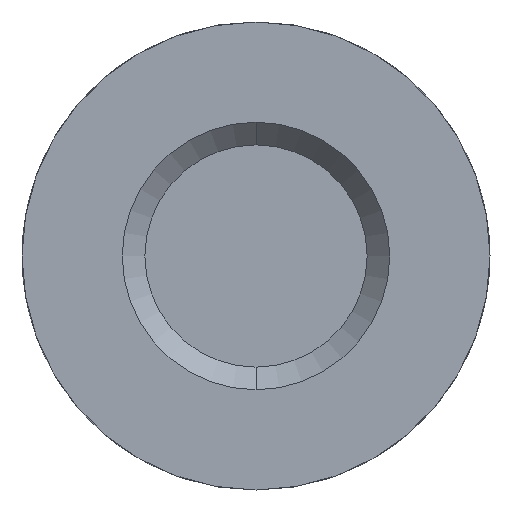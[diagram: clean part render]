
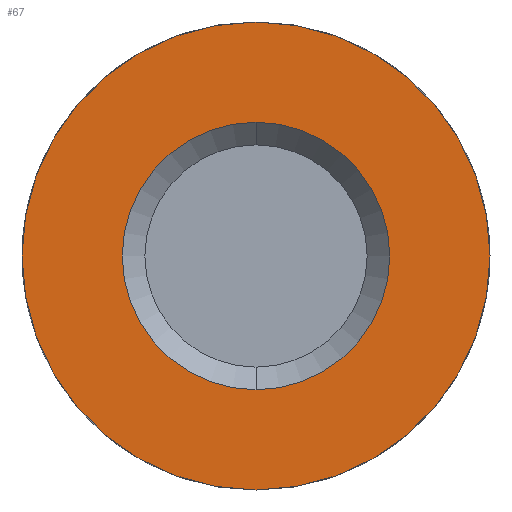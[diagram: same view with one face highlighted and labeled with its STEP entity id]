
A CAD part, front view. The second image highlights one B-rep face of the part: STEP entity #67.
In plain terms, the highlighted planar face has unit normal (0, -1, 0).
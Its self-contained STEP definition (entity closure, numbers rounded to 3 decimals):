
#3 = ORIENTED_EDGE ( 'NONE', *, *, #135, .T. ) ;
#4 = VERTEX_POINT ( 'NONE', #316 ) ;
#15 = CIRCLE ( 'NONE', #133, 4. ) ;
#26 = PLANE ( 'NONE',  #543 ) ;
#45 = EDGE_CURVE ( 'NONE', #66, #617, #188, .T. ) ;
#66 = VERTEX_POINT ( 'NONE', #222 ) ;
#67 = ADVANCED_FACE ( 'NONE', ( #283, #488 ), #26, .T. ) ;
#74 = AXIS2_PLACEMENT_3D ( 'NONE', #586, #339, #288 ) ;
#79 = CARTESIAN_POINT ( 'NONE',  ( 5.5, 0., 0. ) ) ;
#133 = AXIS2_PLACEMENT_3D ( 'NONE', #484, #584, #387 ) ;
#135 = EDGE_CURVE ( 'NONE', #481, #4, #15, .T. ) ;
#147 = CARTESIAN_POINT ( 'NONE',  ( 0., 0., -7. ) ) ;
#171 = CARTESIAN_POINT ( 'NONE',  ( 0., 0., 0. ) ) ;
#172 = ORIENTED_EDGE ( 'NONE', *, *, #413, .T. ) ;
#188 = CIRCLE ( 'NONE', #357, 7. ) ;
#219 = CARTESIAN_POINT ( 'NONE',  ( 0., 0., -4. ) ) ;
#222 = CARTESIAN_POINT ( 'NONE',  ( 0., 0., 7. ) ) ;
#283 = FACE_BOUND ( 'NONE', #284, .T. ) ;
#284 = EDGE_LOOP ( 'NONE', ( #3, #172 ) ) ;
#288 = DIRECTION ( 'NONE',  ( 0., 0., 1. ) ) ;
#303 = DIRECTION ( 'NONE',  ( 0., 1., 0. ) ) ;
#316 = CARTESIAN_POINT ( 'NONE',  ( 0., 0., 4. ) ) ;
#318 = CARTESIAN_POINT ( 'NONE',  ( 0., 0., 0. ) ) ;
#326 = EDGE_LOOP ( 'NONE', ( #634, #396 ) ) ;
#334 = DIRECTION ( 'NONE',  ( 0., 0., -1. ) ) ;
#339 = DIRECTION ( 'NONE',  ( 0., 1., 0. ) ) ;
#357 = AXIS2_PLACEMENT_3D ( 'NONE', #318, #477, #472 ) ;
#385 = DIRECTION ( 'NONE',  ( 0., -1., 0. ) ) ;
#387 = DIRECTION ( 'NONE',  ( 0., 0., -1. ) ) ;
#396 = ORIENTED_EDGE ( 'NONE', *, *, #596, .F. ) ;
#413 = EDGE_CURVE ( 'NONE', #4, #481, #527, .T. ) ;
#472 = DIRECTION ( 'NONE',  ( 0., 0., 1. ) ) ;
#477 = DIRECTION ( 'NONE',  ( 0., 1., 0. ) ) ;
#481 = VERTEX_POINT ( 'NONE', #219 ) ;
#484 = CARTESIAN_POINT ( 'NONE',  ( 0., 0., 0. ) ) ;
#488 = FACE_OUTER_BOUND ( 'NONE', #326, .T. ) ;
#527 = CIRCLE ( 'NONE', #585, 4. ) ;
#543 = AXIS2_PLACEMENT_3D ( 'NONE', #79, #385, #334 ) ;
#557 = DIRECTION ( 'NONE',  ( 0., 0., -1. ) ) ;
#584 = DIRECTION ( 'NONE',  ( 0., 1., 0. ) ) ;
#585 = AXIS2_PLACEMENT_3D ( 'NONE', #171, #303, #557 ) ;
#586 = CARTESIAN_POINT ( 'NONE',  ( 0., 0., 0. ) ) ;
#596 = EDGE_CURVE ( 'NONE', #617, #66, #614, .T. ) ;
#614 = CIRCLE ( 'NONE', #74, 7. ) ;
#617 = VERTEX_POINT ( 'NONE', #147 ) ;
#634 = ORIENTED_EDGE ( 'NONE', *, *, #45, .F. ) ;
